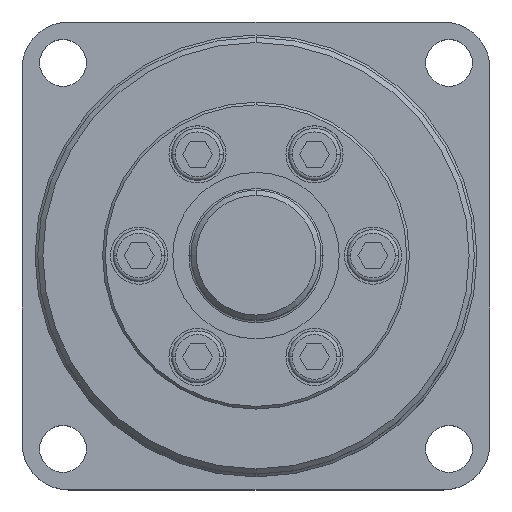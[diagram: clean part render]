
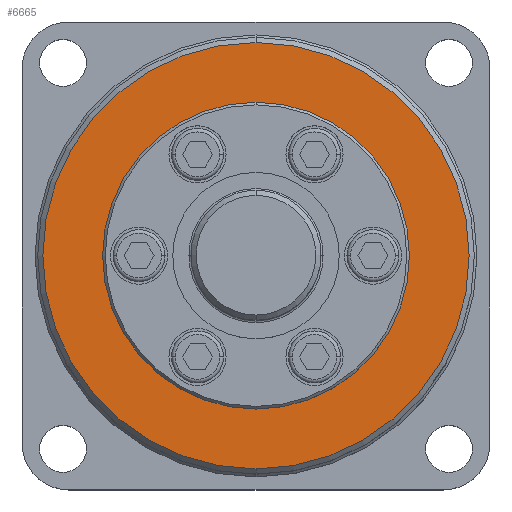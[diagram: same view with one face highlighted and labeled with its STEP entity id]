
A CAD part, top view. The second image highlights one B-rep face of the part: STEP entity #6665.
In plain terms, the highlighted planar face has unit normal (0, 0, 1).
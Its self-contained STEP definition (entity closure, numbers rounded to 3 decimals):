
#189=CARTESIAN_POINT('',(0.,0.,26.));
#190=DIRECTION('',(0.,0.,-1.));
#191=DIRECTION('',(0.,1.,0.));
#192=AXIS2_PLACEMENT_3D('',#189,#190,#191);
#194=CARTESIAN_POINT('',(0.,0.,26.));
#195=DIRECTION('',(0.,0.,-1.));
#196=DIRECTION('',(0.,-1.,0.));
#197=AXIS2_PLACEMENT_3D('',#194,#195,#196);
#199=CARTESIAN_POINT('',(0.,0.,26.));
#200=DIRECTION('',(0.,0.,1.));
#201=DIRECTION('',(0.,-1.,0.));
#202=AXIS2_PLACEMENT_3D('',#199,#200,#201);
#204=CARTESIAN_POINT('',(0.,0.,26.));
#205=DIRECTION('',(0.,0.,1.));
#206=DIRECTION('',(0.,1.,0.));
#207=AXIS2_PLACEMENT_3D('',#204,#205,#206);
#5039=CARTESIAN_POINT('',(0.,29.5,26.));
#5040=VERTEX_POINT('',#5039);
#5041=CARTESIAN_POINT('',(0.,-29.5,26.));
#5042=VERTEX_POINT('',#5041);
#5043=CARTESIAN_POINT('',(0.,41.,26.));
#5044=CARTESIAN_POINT('',(0.,-41.,26.));
#5045=VERTEX_POINT('',#5043);
#5046=VERTEX_POINT('',#5044);
#6650=CARTESIAN_POINT('',(0.,0.,26.));
#6651=DIRECTION('',(0.,0.,1.));
#6652=DIRECTION('',(0.,-1.,0.));
#6653=AXIS2_PLACEMENT_3D('',#6650,#6651,#6652);
#6654=PLANE('',#6653);
#6656=ORIENTED_EDGE('',*,*,#6655,.T.);
#6658=ORIENTED_EDGE('',*,*,#6657,.T.);
#6659=EDGE_LOOP('',(#6656,#6658));
#6660=FACE_OUTER_BOUND('',#6659,.F.);
#6661=ORIENTED_EDGE('',*,*,#6629,.T.);
#6662=ORIENTED_EDGE('',*,*,#6645,.T.);
#6663=EDGE_LOOP('',(#6661,#6662));
#6664=FACE_BOUND('',#6663,.F.);
#6665=ADVANCED_FACE('',(#6660,#6664),#6654,.T.);
#193=CIRCLE('',#192,41.);
#198=CIRCLE('',#197,41.);
#203=CIRCLE('',#202,29.5);
#208=CIRCLE('',#207,29.5);
#6629=EDGE_CURVE('',#5042,#5040,#203,.T.);
#6645=EDGE_CURVE('',#5040,#5042,#208,.T.);
#6655=EDGE_CURVE('',#5045,#5046,#193,.T.);
#6657=EDGE_CURVE('',#5046,#5045,#198,.T.);
